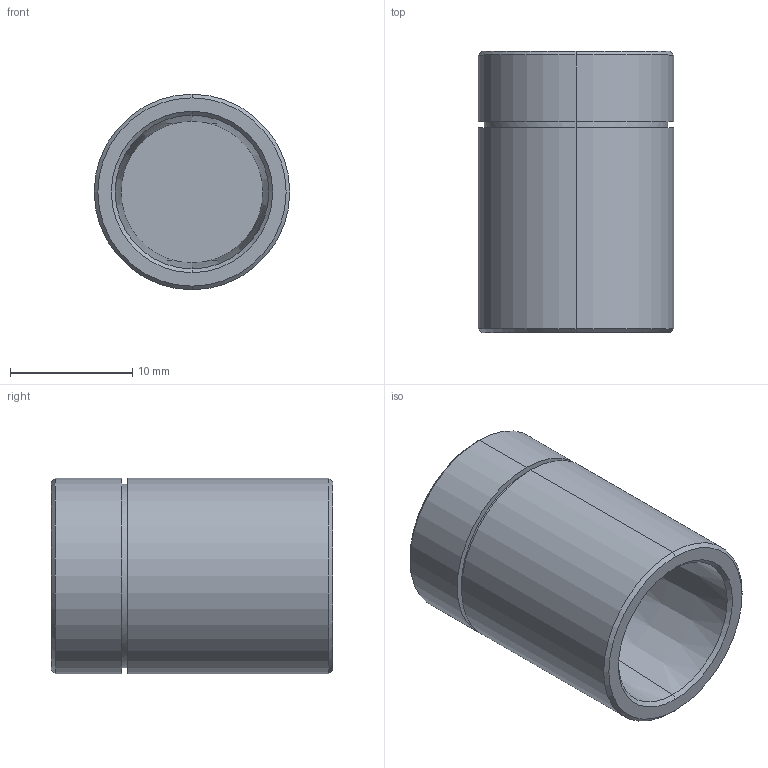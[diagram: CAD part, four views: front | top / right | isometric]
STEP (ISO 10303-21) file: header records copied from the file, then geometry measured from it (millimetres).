
FILE_DESCRIPTION (( 'STEP AP203' ), '1' );
FILE_NAME ('SW-PB-F456-23L-T.STEP', '2022-04-15T06:48:59', ( '' ), ( '' ), 'SwSTEP 2.0', 'SolidWorks 2015', '' );
FILE_SCHEMA (( 'CONFIG_CONTROL_DESIGN' ));
Length unit declared in the file: millimetre
Products named in the file (2): SW-PB-F456-23L-T
Bounding box: 16 x 23 x 16 mm (x, y, z)
Volume: 3455.3 mm3; surface area: 1942.7 mm2
Topology: 1 solids, 1 shells, 19 faces, 36 edges, 22 vertices
Faces by surface type: cone 8, cylinder 6, plane 5
Entity records: 727 total; most frequent: CARTESIAN_POINT 179, DIRECTION 92, ORIENTED_EDGE 72, AXIS2_PLACEMENT_3D 39, EDGE_CURVE 36, EDGE_LOOP 22, VERTEX_POINT 22, ADVANCED_FACE 19
